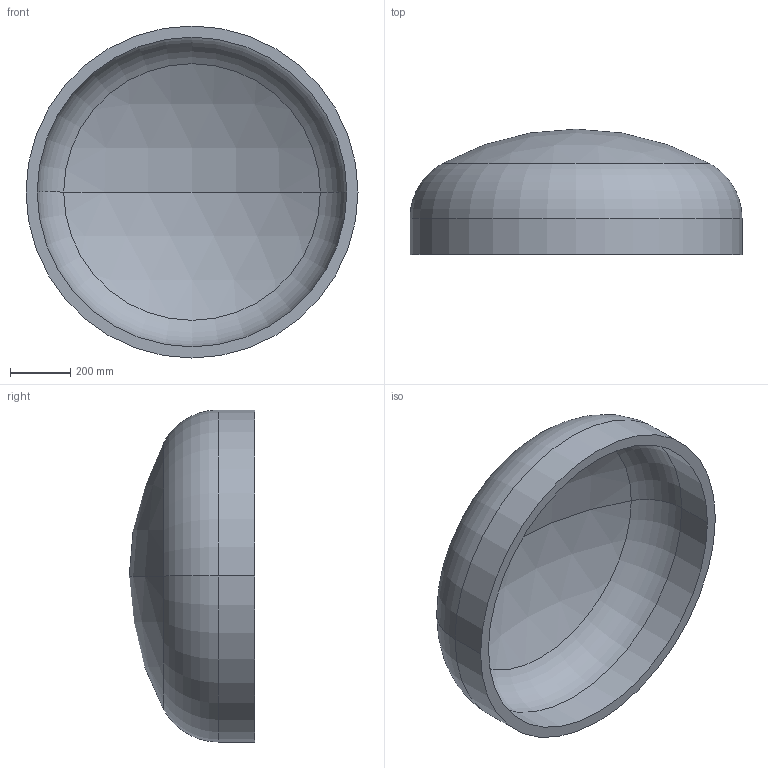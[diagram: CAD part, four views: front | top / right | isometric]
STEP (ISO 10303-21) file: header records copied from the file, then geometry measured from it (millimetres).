
FILE_DESCRIPTION (( 'STEP AP203' ), '1' );
FILE_NAME ('DIN 28013 Korbbogenform_-_Boden DIN 28013 - 1100 x 120 - I - s=37.step', '2016-07-01T09:06:55', ( '' ), ( '' ), 'SwSTEP 2.0', 'SolidWorks 2013', '' );
FILE_SCHEMA (( 'CONFIG_CONTROL_DESIGN' ));
Length unit declared in the file: millimetre
Products named in the file (1): DIN 28013 Korbbogenform_-_Boden DIN 28013 - 1100 x 120 - I - s=37
Bounding box: 1100 x 415.35 x 1100 mm (x, y, z)
Volume: 61472412.1 mm3; surface area: 3449261.4 mm2
Topology: 1 solids, 1 shells, 13 faces, 24 edges, 14 vertices
Faces by surface type: torus 4, cylinder 4, sphere 4, plane 1
Entity records: 407 total; most frequent: DIRECTION 72, CARTESIAN_POINT 52, ORIENTED_EDGE 48, AXIS2_PLACEMENT_3D 34, EDGE_CURVE 24, CIRCLE 20, VERTEX_POINT 14, EDGE_LOOP 14
